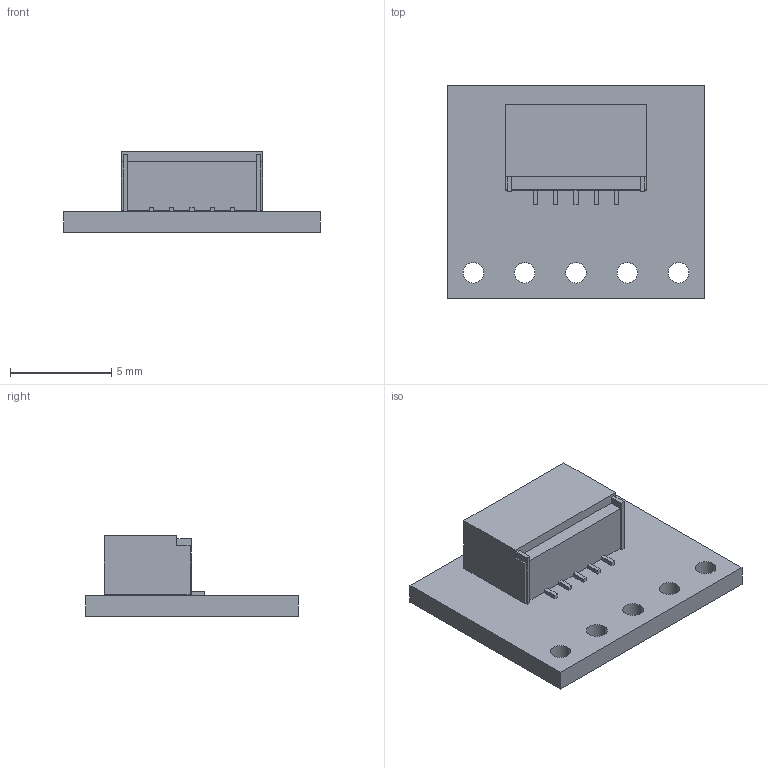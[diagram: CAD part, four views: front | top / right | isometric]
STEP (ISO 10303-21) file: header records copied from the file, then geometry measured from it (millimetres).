
FILE_DESCRIPTION (( 'STEP AP214' ), '1' );
FILE_NAME ('con07a_side.step', '2025-06-12T20:42:08', ( '' ), ( '' ), 'SwSTEP 2.0', 'SolidWorks 2025', '' );
FILE_SCHEMA (( 'AUTOMOTIVE_DESIGN' ));
Length unit declared in the file: millimetre
Products named in the file (1): con07a_side
Bounding box: 12.7 x 10.54 x 3.99 mm (x, y, z)
Volume: 182 mm3; surface area: 507.3 mm2
Topology: 1 solids, 1 shells, 476 faces, 1296 edges, 864 vertices
Faces by surface type: plane 290, bspline 176, cylinder 10
Entity records: 26673 total; most frequent: CARTESIAN_POINT 10629, ORIENTED_EDGE 2592, DIRECTION 1566, EDGE_CURVE 1296, LINE 924, VECTOR 924, VERTEX_POINT 864, EDGE_LOOP 540
